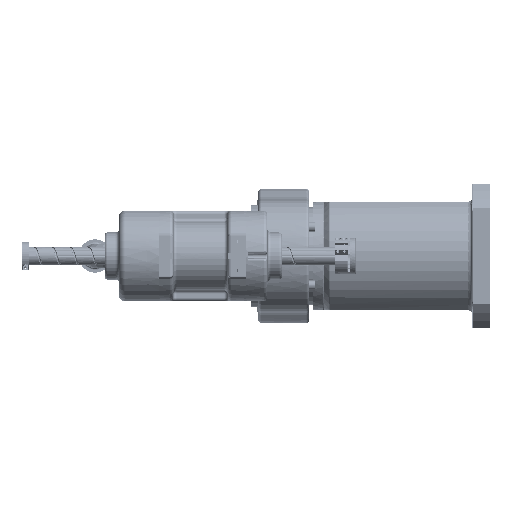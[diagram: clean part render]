
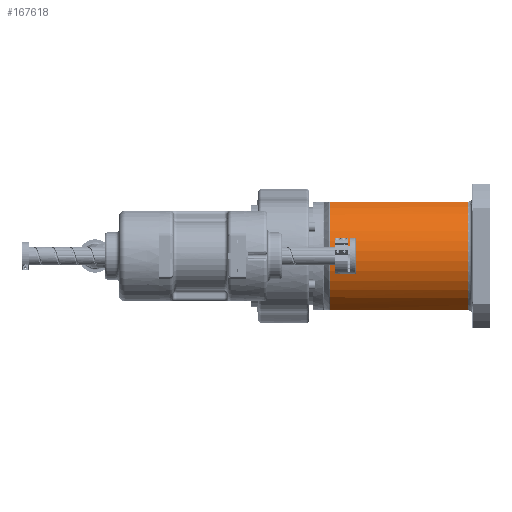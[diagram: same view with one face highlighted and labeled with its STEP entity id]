
A CAD part, left-side view. The second image highlights one B-rep face of the part: STEP entity #167618.
In plain terms, the highlighted cylindrical face has radius 83 mm (diameter 166 mm), a partial arc.
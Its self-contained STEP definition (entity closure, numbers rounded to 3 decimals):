
#5111 = LINE ( 'NONE', #103998, #7246 ) ;
#6971 = CARTESIAN_POINT ( 'NONE',  ( -37.438, 221.172, -74.078 ) ) ;
#7246 = VECTOR ( 'NONE', #65494, 1000. ) ;
#7537 = VECTOR ( 'NONE', #121380, 1000. ) ;
#8093 = CARTESIAN_POINT ( 'NONE',  ( -37.726, 221.172, -73.931 ) ) ;
#11026 = DIRECTION ( 'NONE',  ( 0., 1., 0. ) ) ;
#11760 = CARTESIAN_POINT ( 'NONE',  ( -36.586, 221.035, 74.502 ) ) ;
#12849 = AXIS2_PLACEMENT_3D ( 'NONE', #24775, #11026, #103543 ) ;
#18819 = CARTESIAN_POINT ( 'NONE',  ( -37.726, 221.172, 73.931 ) ) ;
#20797 = CARTESIAN_POINT ( 'NONE',  ( -36.312, 220.925, -74.636 ) ) ;
#21360 = CARTESIAN_POINT ( 'NONE',  ( -36.589, 221.026, -74.5 ) ) ;
#24775 = CARTESIAN_POINT ( 'NONE',  ( 0., 230., 0. ) ) ;
#26071 = EDGE_CURVE ( 'NONE', #145202, #124006, #99458, .T. ) ;
#30633 = ORIENTED_EDGE ( 'NONE', *, *, #160014, .T. ) ;
#30723 = VERTEX_POINT ( 'NONE', #85022 ) ;
#32836 = DIRECTION ( 'NONE',  ( 0., -1., 0. ) ) ;
#35074 = B_SPLINE_CURVE_WITH_KNOTS ( 'NONE', 3,
 ( #38203, #50308, #11760, #108243, #108818, #43358 ),
 .UNSPECIFIED., .F., .F.,
 ( 4, 2, 4 ),
 ( 0., 0.001, 0.002 ),
 .UNSPECIFIED. ) ;
#36179 = CYLINDRICAL_SURFACE ( 'NONE', #12849, 83. ) ;
#38203 = CARTESIAN_POINT ( 'NONE',  ( -36.048, 220.78, 74.763 ) ) ;
#43358 = CARTESIAN_POINT ( 'NONE',  ( -37.726, 221.172, 73.931 ) ) ;
#44373 = CARTESIAN_POINT ( 'NONE',  ( -36.048, 230., 74.763 ) ) ;
#44399 = EDGE_CURVE ( 'NONE', #30723, #92603, #48791, .T. ) ;
#48791 = CIRCLE ( 'NONE', #143501, 83. ) ;
#50308 = CARTESIAN_POINT ( 'NONE',  ( -36.302, 220.942, 74.641 ) ) ;
#53232 = ORIENTED_EDGE ( 'NONE', *, *, #141611, .T. ) ;
#53957 = B_SPLINE_CURVE_WITH_KNOTS ( 'NONE', 3,
 ( #8093, #6971, #97850, #125300, #21360, #20797, #113269, #59892 ),
 .UNSPECIFIED., .F., .F.,
 ( 4, 2, 2, 4 ),
 ( 0., 0.001, 0.001, 0.002 ),
 .UNSPECIFIED. ) ;
#57900 = AXIS2_PLACEMENT_3D ( 'NONE', #58173, #32836, #138556 ) ;
#58173 = CARTESIAN_POINT ( 'NONE',  ( 0., 221.172, 0. ) ) ;
#59892 = CARTESIAN_POINT ( 'NONE',  ( -36.048, 220.78, -74.763 ) ) ;
#65494 = DIRECTION ( 'NONE',  ( 0., -1., 0. ) ) ;
#68165 = EDGE_CURVE ( 'NONE', #101302, #30723, #5111, .T. ) ;
#73002 = DIRECTION ( 'NONE',  ( 1., 0., 0. ) ) ;
#83285 = ORIENTED_EDGE ( 'NONE', *, *, #68165, .T. ) ;
#83468 = FACE_OUTER_BOUND ( 'NONE', #164800, .T. ) ;
#83664 = CARTESIAN_POINT ( 'NONE',  ( -36.048, 220.78, 74.763 ) ) ;
#85022 = CARTESIAN_POINT ( 'NONE',  ( -36.048, 30., -74.763 ) ) ;
#92603 = VERTEX_POINT ( 'NONE', #157382 ) ;
#97191 = ORIENTED_EDGE ( 'NONE', *, *, #153934, .T. ) ;
#97850 = CARTESIAN_POINT ( 'NONE',  ( -37.152, 221.15, -74.221 ) ) ;
#99458 = CIRCLE ( 'NONE', #57900, 83. ) ;
#101302 = VERTEX_POINT ( 'NONE', #154752 ) ;
#102252 = LINE ( 'NONE', #44373, #7537 ) ;
#103543 = DIRECTION ( 'NONE',  ( -1., 0., 0. ) ) ;
#103998 = CARTESIAN_POINT ( 'NONE',  ( -36.048, 230., -74.763 ) ) ;
#108243 = CARTESIAN_POINT ( 'NONE',  ( -37.152, 221.15, 74.221 ) ) ;
#108818 = CARTESIAN_POINT ( 'NONE',  ( -37.438, 221.172, 74.077 ) ) ;
#111512 = CARTESIAN_POINT ( 'NONE',  ( 0., 30., 0. ) ) ;
#113269 = CARTESIAN_POINT ( 'NONE',  ( -36.176, 220.862, -74.702 ) ) ;
#121380 = DIRECTION ( 'NONE',  ( 0., 1., 0. ) ) ;
#124006 = VERTEX_POINT ( 'NONE', #159058 ) ;
#125300 = CARTESIAN_POINT ( 'NONE',  ( -36.729, 221.064, -74.431 ) ) ;
#131791 = ORIENTED_EDGE ( 'NONE', *, *, #26071, .T. ) ;
#138556 = DIRECTION ( 'NONE',  ( -1., 0., 0. ) ) ;
#139125 = DIRECTION ( 'NONE',  ( 0., 1., 0. ) ) ;
#141611 = EDGE_CURVE ( 'NONE', #152627, #145202, #35074, .T. ) ;
#143501 = AXIS2_PLACEMENT_3D ( 'NONE', #111512, #139125, #73002 ) ;
#143628 = ORIENTED_EDGE ( 'NONE', *, *, #44399, .T. ) ;
#145202 = VERTEX_POINT ( 'NONE', #18819 ) ;
#152627 = VERTEX_POINT ( 'NONE', #83664 ) ;
#153934 = EDGE_CURVE ( 'NONE', #92603, #152627, #102252, .T. ) ;
#154752 = CARTESIAN_POINT ( 'NONE',  ( -36.048, 220.78, -74.763 ) ) ;
#157382 = CARTESIAN_POINT ( 'NONE',  ( -36.048, 30., 74.763 ) ) ;
#159058 = CARTESIAN_POINT ( 'NONE',  ( -37.726, 221.172, -73.931 ) ) ;
#160014 = EDGE_CURVE ( 'NONE', #124006, #101302, #53957, .T. ) ;
#164800 = EDGE_LOOP ( 'NONE', ( #30633, #83285, #143628, #97191, #53232, #131791 ) ) ;
#167618 = ADVANCED_FACE ( 'NONE', ( #83468 ), #36179, .T. ) ;
